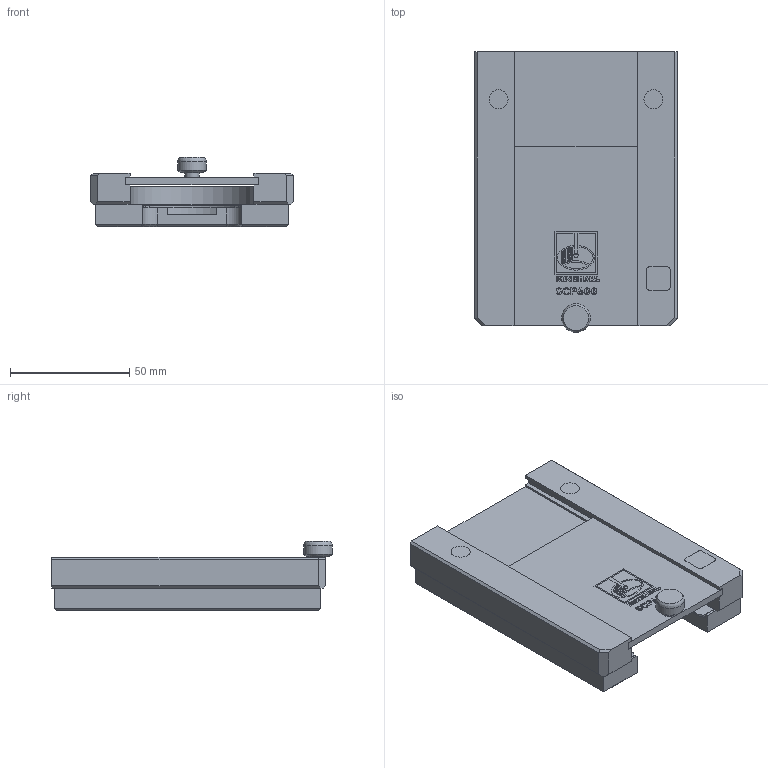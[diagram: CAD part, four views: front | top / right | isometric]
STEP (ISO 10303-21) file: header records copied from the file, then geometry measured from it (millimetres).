
FILE_DESCRIPTION(/* description */ (''),/* implementation_level */ '2;1');
FILE_NAME(/* name */ 'LA-2098-0933#-D.stp',/* time_stamp */ '2012-09-07T10:11:10+01:00',/* author */ (''),/* organization */ (''),/* preprocessor_version */ 'ST-DEVELOPER v11',/* originating_system */ 'SIEMENS PLM Software NX 7.5',/* authorisation */ '');
FILE_SCHEMA (('AUTOMOTIVE_DESIGN { 1 0 10303 214 1 1 1 1 }'));
Length unit declared in the file: millimetre
Products named in the file (1): rt13371Ayv1e
Bounding box: 85 x 117.8 x 29.23 mm (x, y, z)
Volume: 153854.9 mm3; surface area: 40003.8 mm2
Topology: 2 solids, 2 shells, 132 faces, 450 edges, 358 vertices
Faces by surface type: plane 105, cylinder 15, bspline 9, cone 3
Full cylindrical faces by diameter (mm): 6 x1, 12 x1
Entity records: 6316 total; most frequent: CARTESIAN_POINT 1587, ORIENTED_EDGE 886, DIRECTION 606, EDGE_CURVE 443, VERTEX_POINT 355, LINE 238, VECTOR 238, AXIS2_PLACEMENT_3D 184
